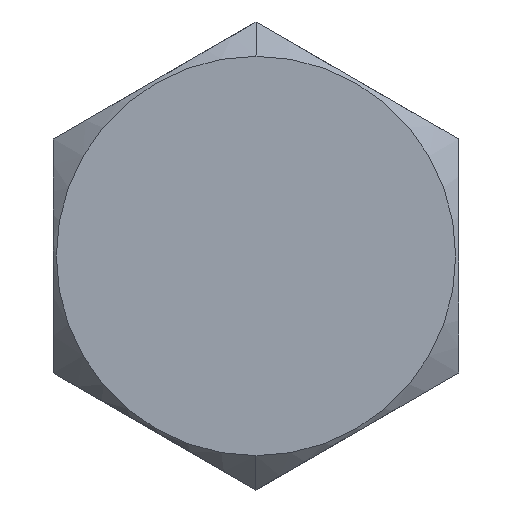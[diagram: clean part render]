
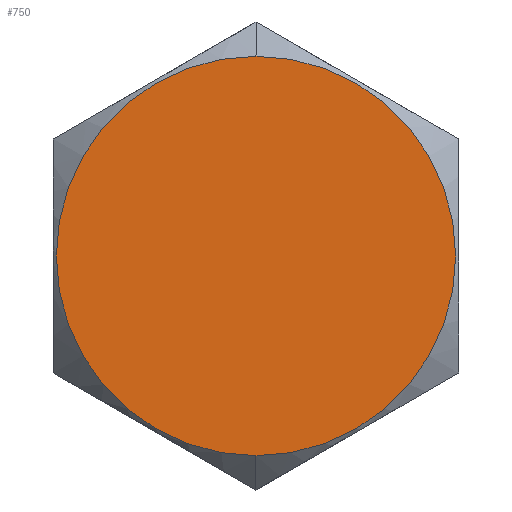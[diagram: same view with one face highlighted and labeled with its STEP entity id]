
A CAD part, left-side view. The second image highlights one B-rep face of the part: STEP entity #750.
In plain terms, the highlighted planar face has unit normal (-1, 0, 0).
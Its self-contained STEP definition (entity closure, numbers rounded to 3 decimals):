
#17 = AXIS2_PLACEMENT_3D ( 'NONE', #36, #285, #721 ) ;
#18 = ORIENTED_EDGE ( 'NONE', *, *, #529, .F. ) ;
#29 = DIRECTION ( 'NONE',  ( 0., 0., -1. ) ) ;
#32 = CIRCLE ( 'NONE', #17, 6.406 ) ;
#36 = CARTESIAN_POINT ( 'NONE',  ( 0., 0., 0. ) ) ;
#46 = AXIS2_PLACEMENT_3D ( 'NONE', #118, #51, #58 ) ;
#51 = DIRECTION ( 'NONE',  ( 1., 0., 0. ) ) ;
#58 = DIRECTION ( 'NONE',  ( 0., 0., -1. ) ) ;
#103 = CARTESIAN_POINT ( 'NONE',  ( 0., 0., 0. ) ) ;
#118 = CARTESIAN_POINT ( 'NONE',  ( 0., 0., 0. ) ) ;
#285 = DIRECTION ( 'NONE',  ( 1., 0., 0. ) ) ;
#318 = EDGE_LOOP ( 'NONE', ( #479, #18 ) ) ;
#329 = EDGE_CURVE ( 'NONE', #375, #330, #32, .T. ) ;
#330 = VERTEX_POINT ( 'NONE', #416 ) ;
#375 = VERTEX_POINT ( 'NONE', #408 ) ;
#400 = FACE_OUTER_BOUND ( 'NONE', #318, .T. ) ;
#408 = CARTESIAN_POINT ( 'NONE',  ( 0., 0., -6.406 ) ) ;
#416 = CARTESIAN_POINT ( 'NONE',  ( 0., 0., 6.406 ) ) ;
#479 = ORIENTED_EDGE ( 'NONE', *, *, #329, .F. ) ;
#480 = DIRECTION ( 'NONE',  ( 1., 0., 0. ) ) ;
#529 = EDGE_CURVE ( 'NONE', #330, #375, #744, .T. ) ;
#546 = PLANE ( 'NONE',  #602 ) ;
#602 = AXIS2_PLACEMENT_3D ( 'NONE', #103, #480, #29 ) ;
#721 = DIRECTION ( 'NONE',  ( 0., 0., -1. ) ) ;
#744 = CIRCLE ( 'NONE', #46, 6.406 ) ;
#750 = ADVANCED_FACE ( 'NONE', ( #400 ), #546, .F. ) ;
